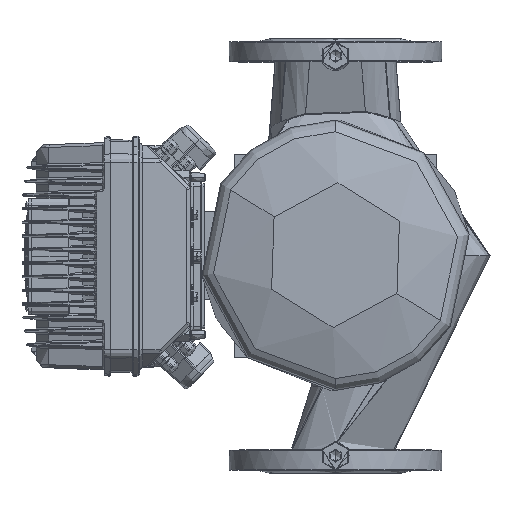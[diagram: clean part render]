
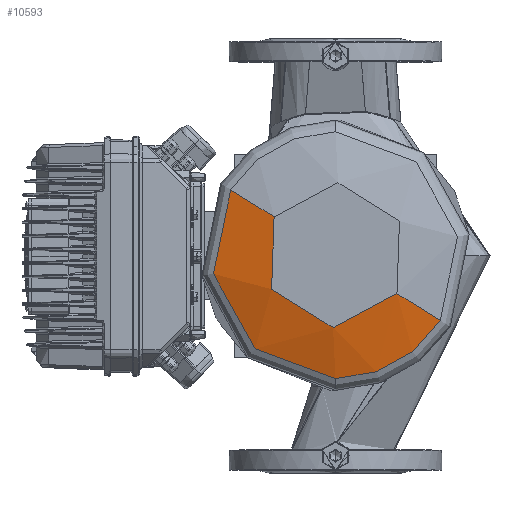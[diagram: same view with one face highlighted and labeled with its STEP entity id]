
A CAD part, top view. The second image highlights one B-rep face of the part: STEP entity #10593.
In plain terms, the highlighted conical face has half-angle 75 degrees and reference radius 101.423 mm.
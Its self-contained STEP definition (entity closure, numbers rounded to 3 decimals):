
#10593=ADVANCED_FACE('',(#27435),#27436,.T.);
#27435=FACE_OUTER_BOUND('',#55909,.T.);
#27436=CONICAL_SURFACE('',#55910,101.423,1.309);
#55909=EDGE_LOOP('',(#295935,#295936,#295937,#295938,#295939));
#55910=AXIS2_PLACEMENT_3D('',#295940,#295941,#295942);
#295935=ORIENTED_EDGE('',*,*,#349020,.T.);
#295936=ORIENTED_EDGE('',*,*,#349042,.F.);
#295937=ORIENTED_EDGE('',*,*,#349023,.T.);
#295938=ORIENTED_EDGE('',*,*,#349040,.T.);
#295939=ORIENTED_EDGE('',*,*,#349030,.T.);
#295940=CARTESIAN_POINT('',(-200.625,-226.376,190.348));
#295941=DIRECTION('',(-0.0,-0.0,-1.0));
#295942=DIRECTION('',(0.848,-0.529,0.0));
#349020=EDGE_CURVE('',#369294,#369295,#369296,.T.);
#349023=EDGE_CURVE('',#369301,#369299,#369302,.T.);
#349030=EDGE_CURVE('',#369306,#369294,#369313,.T.);
#349040=EDGE_CURVE('',#369299,#369306,#369326,.T.);
#349042=EDGE_CURVE('',#369301,#369295,#369328,.T.);
#369294=VERTEX_POINT('',#398025);
#369295=VERTEX_POINT('',#398026);
#369296=LINE('',#398027,#398028);
#369299=VERTEX_POINT('',#398031);
#369301=VERTEX_POINT('',#398033);
#369302=LINE('',#398034,#398035);
#369306=VERTEX_POINT('',#398039);
#369313=CIRCLE('',#398046,127.845);
#369326=CIRCLE('',#398061,127.845);
#369328=CIRCLE('',#398063,75.);
#398025=CARTESIAN_POINT('',(-92.16,-294.051,183.268));
#398026=CARTESIAN_POINT('',(-136.995,-266.077,197.428));
#398027=CARTESIAN_POINT('',(-114.578,-280.064,190.348));
#398028=VECTOR('',#509136,1.0);
#398031=CARTESIAN_POINT('',(-309.09,-158.701,183.268));
#398033=CARTESIAN_POINT('',(-264.255,-186.675,197.428));
#398034=CARTESIAN_POINT('',(-286.672,-172.688,190.348));
#398035=VECTOR('',#509143,1.0);
#398039=CARTESIAN_POINT('',(-200.625,-354.222,183.268));
#398046=AXIS2_PLACEMENT_3D('',#509159,#509160,#509161);
#398061=AXIS2_PLACEMENT_3D('',#509176,#509177,#509178);
#398063=AXIS2_PLACEMENT_3D('',#509179,#509180,#509181);
#509136=DIRECTION('',(-0.819,0.511,0.259));
#509143=DIRECTION('',(-0.819,0.511,-0.259));
#509159=CARTESIAN_POINT('',(-200.625,-226.376,183.268));
#509160=DIRECTION('',(0.0,0.0,1.0));
#509161=DIRECTION('',(0.848,-0.529,0.0));
#509176=CARTESIAN_POINT('',(-200.625,-226.376,183.268));
#509177=DIRECTION('',(0.0,0.0,1.0));
#509178=DIRECTION('',(0.848,-0.529,0.0));
#509179=CARTESIAN_POINT('',(-200.625,-226.376,197.428));
#509180=DIRECTION('',(0.0,0.0,1.0));
#509181=DIRECTION('',(0.848,-0.529,0.0));
